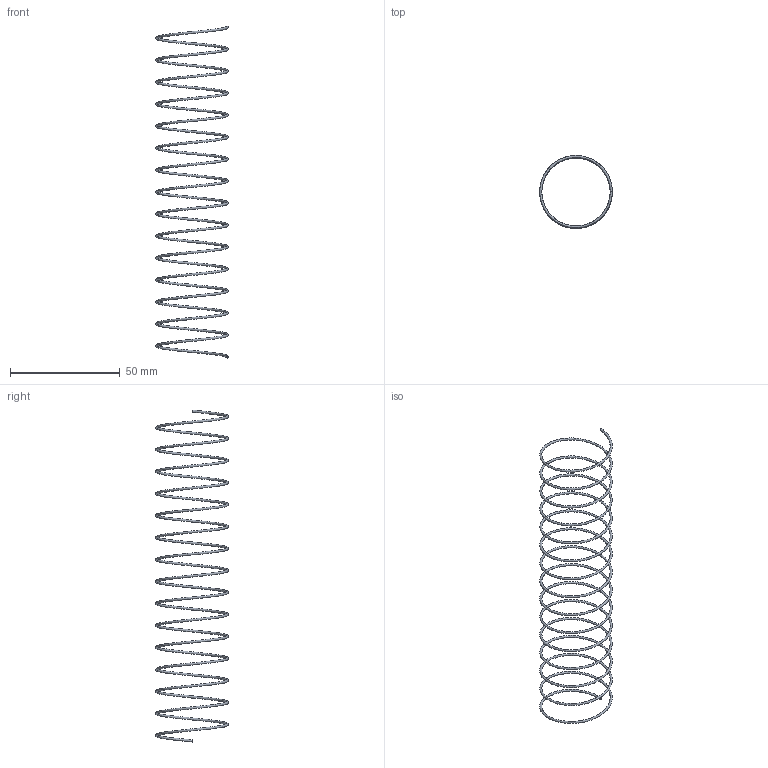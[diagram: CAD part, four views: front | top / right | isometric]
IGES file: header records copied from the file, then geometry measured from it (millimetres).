
Start section: Missler Software BP 521, 31674 Labege Cedex, France Tel   : +33 (0)5 61 00 03 00 Fax   : +33 (0)5 61 00 03 03 Email : sup.topsolid@topsolid.com
Global section: file name: D:\Cuma\25 06 2009\D60.01\D60.01_32\D60.01_32150.igs; native system: TopSolid v605250 Missler Software; preprocessor: IGES preprocessor v100000; date: 030203.162251; units: millimetre
Bounding box: 33 x 33 x 150.99 mm (x, y, z)
Surface area: 4727.6 mm2 (no closed solid volume)
Topology: 0 solids, 0 shells, 3 faces, 27 edges, 26 vertices
Faces by surface type: bspline 3
